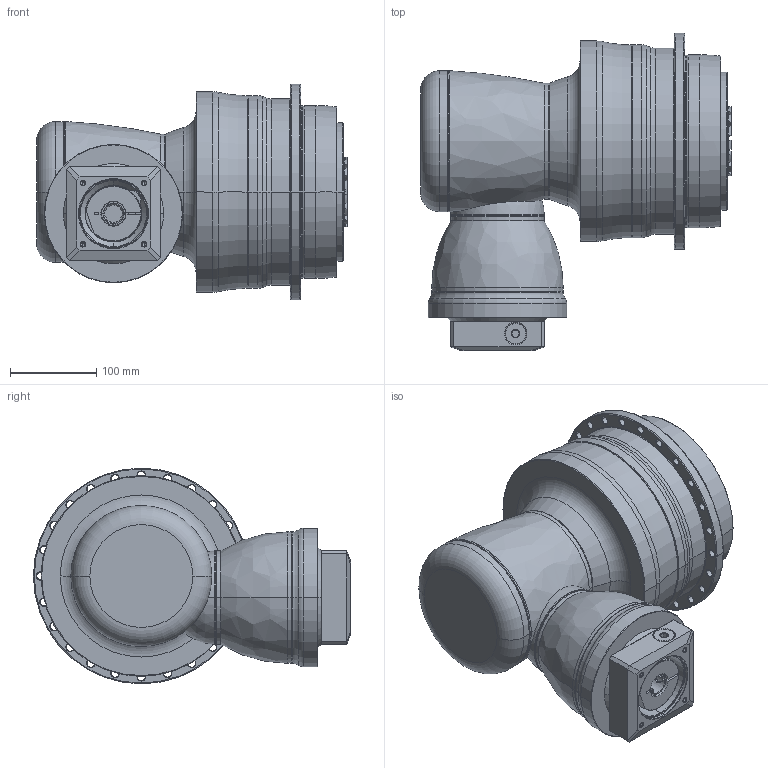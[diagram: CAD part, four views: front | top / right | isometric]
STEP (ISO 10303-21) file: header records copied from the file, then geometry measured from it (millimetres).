
FILE_DESCRIPTION((''),'2;1');
FILE_NAME('APCK200_3ST_24-P0409510201_ASM','2018-05-11T',('d01226'),(''),'PRO/ENGINEER BY PARAMETRIC TECHNOLOGY CORPORATION, 2008410','PRO/ENGINEER BY PARAMETRIC TECHNOLOGY CORPORATION, 2008410','');
FILE_SCHEMA(('CONFIG_CONTROL_DESIGN'));
Length unit declared in the file: millimetre
Products named in the file (13): P1008500002; P1832600001; P0278601003; P0359660103; P1211600001; P1315500001; P1007501001; P1318501001; P0409510201; P0503500010; P0912550001; 21711418017; APCK200_3ST_24-P0409510201_ASM
Assembly tree (12 placements, depth 2):
  APCK200_3ST_24-P0409510201_ASM
    P1008500002
    P1832600001
    P0278601003
    P0359660103
    P1211600001
    P1315500001
    P1007501001
    P1318501001
    P0409510201
    P0503500010
    P0912550001
    21711418017
Bounding box: 359.6 x 366.75 x 249.5 mm (x, y, z)
Volume: 12189181.7 mm3; surface area: 878830.8 mm2
Topology: 13 solids, 23 shells, 699 faces, 1646 edges, 1002 vertices
Faces by surface type: cone 221, cylinder 217, plane 128, torus 110, bspline 21, sphere 2
Entity records: 26086 total; most frequent: CARTESIAN_POINT 9481, DIRECTION 3732, ORIENTED_EDGE 3222, EDGE_CURVE 1632, AXIS2_PLACEMENT_3D 1630, VERTEX_POINT 1002, CIRCLE 917, EDGE_LOOP 806
